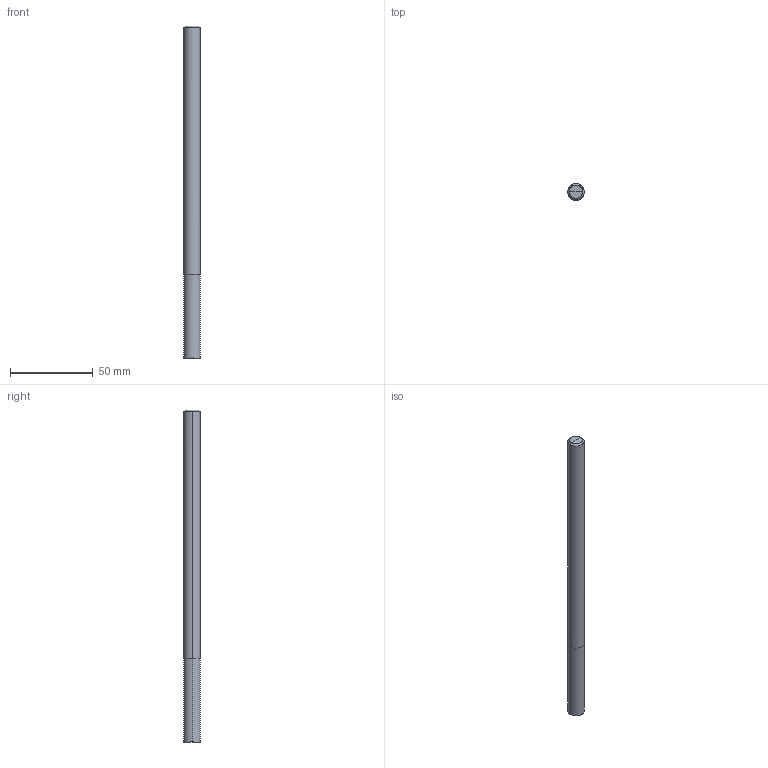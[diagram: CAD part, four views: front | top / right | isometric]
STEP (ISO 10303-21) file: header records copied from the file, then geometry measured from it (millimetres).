
FILE_DESCRIPTION(/* description */ (''),/* implementation_level */ '2;1');
FILE_NAME(/*name*/ '2121-10',/*time_stamp*/'2021-6-28T13:21:39',/*author*/ ('ISBE GmbH'),/*organization*/ ('ISBE GmbH'),/*preprocessor_version*/ 'STEP IO v1.0',/*originating_system*/ '',/*authorisation*/ '');
FILE_SCHEMA (('AUTOMOTIVE_DESIGN'));
Length unit declared in the file: millimetre
Products named in the file (1): Document
Bounding box: 10 x 9.98 x 200 mm (x, y, z)
Surface area: 6586.9 mm2 (no closed solid volume)
Topology: 0 solids, 14 shells, 14 faces, 58 edges, 52 vertices
Faces by surface type: bspline 14
Entity records: 1407 total; most frequent: CARTESIAN_POINT 1142, VERTEX_POINT 48, EDGE_CURVE 48, ORIENTED_EDGE 48, DIRECTION 16, EDGE_LOOP 14, FACE_OUTER_BOUND 14, ADVANCED_FACE 14
